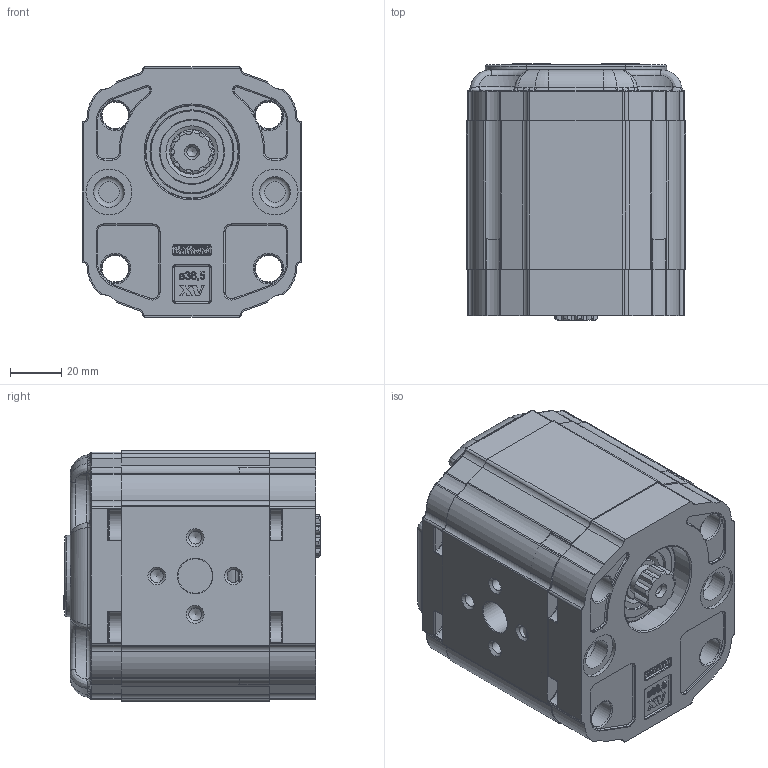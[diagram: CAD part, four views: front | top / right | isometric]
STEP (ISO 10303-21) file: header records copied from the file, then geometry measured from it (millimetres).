
FILE_DESCRIPTION( ( 'Unknown' ), '1' );
FILE_NAME( 'P:/montaggio_easy/output/STP/X2F4772QOOA.stp', 'Unknown', ( 'Unknown' ), ( 'Unknown' ), 'PSStep 14.0', 'Unknown', ' ' );
FILE_SCHEMA( ( 'AUTOMOTIVE_DESIGN { 1 0 10303 214 1 1 1 1 }' ) );
Length unit declared in the file: millimetre
Products named in the file (5): Assem1; X2F72; 2Q; X2OOH58; XF202-A
Bounding box: 86 x 100.5 x 98 mm (x, y, z)
Surface area: 191918.7 mm2
Topology: 8 solids, 10 shells, 3474 faces, 9114 edges, 5910 vertices
Faces by surface type: plane 1676, cylinder 902, extrusion 440, torus 258, bspline 126, cone 72
Full cylindrical faces by diameter (mm): 4 x2, 4.917 x8, 5 x8, 10.5 x8, 11 x8, 11.5 x8, 12 x4, 12.5 x2, 13.5 x4, 17.42 x2, 18 x4, 23 x2, 25 x2, 32.5 x2, 36.5 x2
Entity records: 73582 total; most frequent: CARTESIAN_POINT 17442, ORIENTED_EDGE 8874, DIRECTION 8304, EDGE_CURVE 4437, VECTOR 2928, VERTEX_POINT 2925, LINE 2708, AXIS2_PLACEMENT_3D 2688
